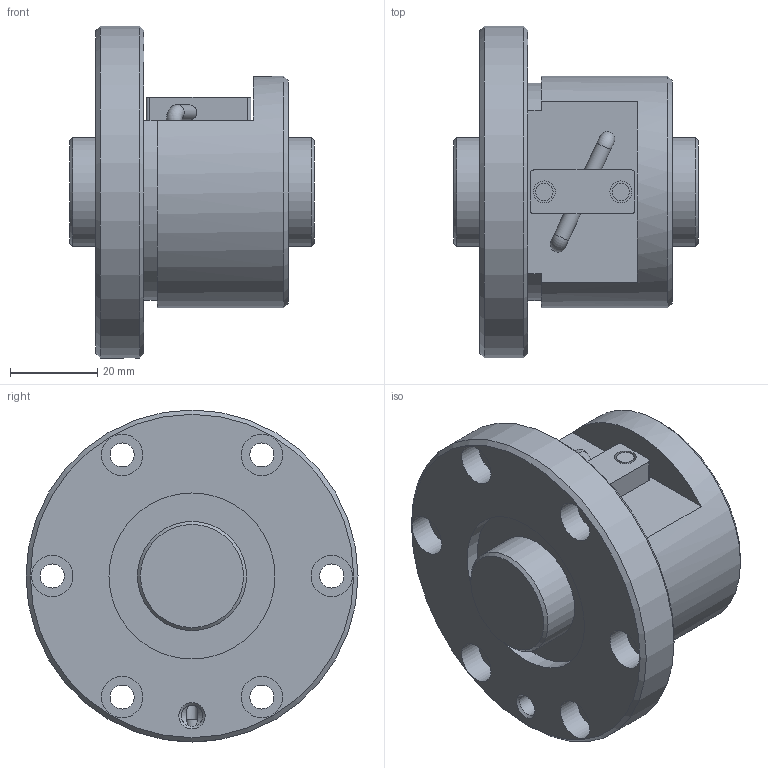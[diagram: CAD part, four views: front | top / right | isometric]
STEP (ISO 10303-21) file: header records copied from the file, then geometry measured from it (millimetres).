
FILE_DESCRIPTION(/* description */ ('STEP AP203'),/* implementation_level */ '2;1');
FILE_NAME(/* name */ 'BNF2506V-2.5RRG1+56LC0_000_rev',/* time_stamp */ '2024-08-06T07:29:20+02:00',/* author */ ('License CC BY-ND 4.0'),/* organization */ ('CADENAS'),/* preprocessor_version */ 'ST-DEVELOPER v19.3',/* originating_system */ 'PARTsolutions',/* authorisation */ ' ');
FILE_SCHEMA (('CONFIG_CONTROL_DESIGN'));
Length unit declared in the file: millimetre
Products named in the file (3): BNF2506V-2.5RRG1+56LC0_000_rev; BNF 2506-2.5RR000 Shaft; BNF 2506-2.5RR Nut
Assembly tree (2 placements, depth 2):
  BNF2506V-2.5RRG1+56LC0_000_rev
    BNF 2506-2.5RR000 Shaft
    BNF 2506-2.5RR Nut
Bounding box: 56 x 76 x 76 mm (x, y, z)
Volume: 114167.5 mm3; surface area: 27829.1 mm2
Topology: 2 solids, 2 shells, 70 faces, 152 edges, 99 vertices
Faces by surface type: cylinder 33, plane 27, cone 8, torus 2
Full cylindrical faces by diameter (mm): 2.75 x2, 3.531 x2, 4 x2, 4.917 x1, 5 x2, 5.5 x6, 9.5 x6, 25 x2, 38 x2, 53 x1, 76 x1
Entity records: 1803 total; most frequent: DIRECTION 316, CARTESIAN_POINT 313, ORIENTED_EDGE 210, AXIS2_PLACEMENT_3D 146, EDGE_LOOP 140, FACE_BOUND 140, EDGE_CURVE 105, VERTEX_POINT 89
